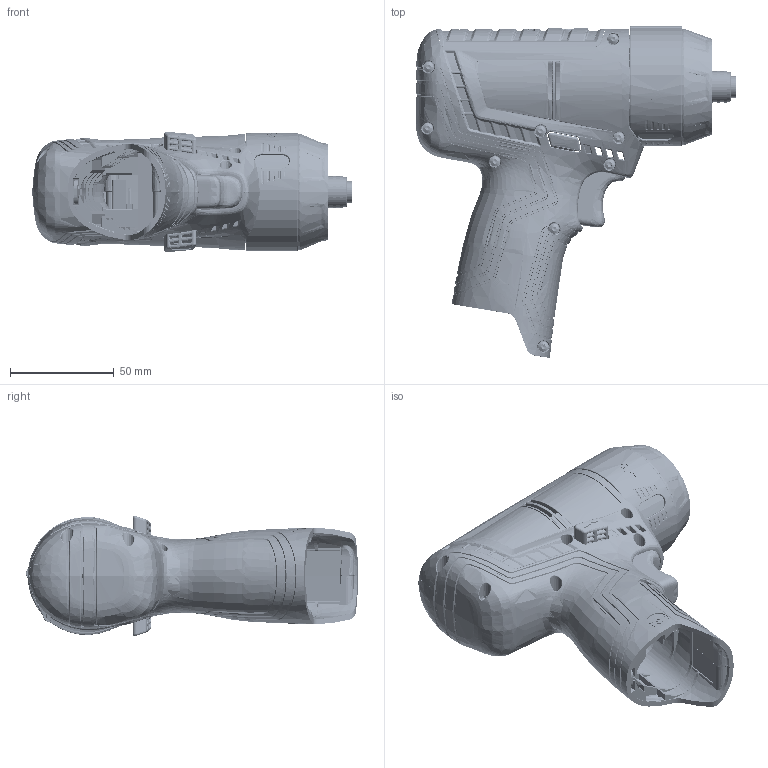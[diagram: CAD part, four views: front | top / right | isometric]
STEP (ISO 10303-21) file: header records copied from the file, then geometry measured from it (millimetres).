
FILE_DESCRIPTION((''),'2;1');
FILE_NAME('3602D96400_ASM','2020-10-22T08:06:23',('LEM2MT'),(''),'CREO PARAMETRIC BY PTC INC, 2018190','CREO PARAMETRIC BY PTC INC, 2018190','');
FILE_SCHEMA(('AUTOMOTIVE_DESIGN { 1 0 10303 214 1 1 1 1 }'));
Products named in the file (57): 3602D96400_SKEL; 3605105053_SKEL0001; 3605105058-100; 3605105058-200; 3604460193; 3604460194; 3605105053_ASM; 3605105055; 3605105055_ASM; 3604460195; 3605105057; 3607030495_SKEL1; 3607030495_100_ASM; 3607030495_200_SKEL; 3605106122; 3605106122_ASM; 3600905085-01; 3600905085-02; 3600905085-03; 3600905085-04; 3600905085-05; 3600905085_ASM; 3606337257_ASM; 3607030495_400_SKEL0001; 3601038054; 3600100104; 3607030495_300_ASM; 3600134019; 3600106034; 3607030495_400_ASM; 3607030495_200_ASM; 3607030495_SWF_SKEL; 3606337253; 2609110983; 2609110981; 2609110982; 2609110984; 2609110985; 3600400038; 3607030495_SWF_ASM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
Assembly tree (79 placements, depth 6):
  3602D96400_ASM
    3602D96400_SKEL
    3605105053_ASM
      3605105053_SKEL0001
      3605105058-100
      3605105058-200
      3604460193
      3604460194
    3605105055_ASM
      3605105055
    3604460195
    3605105057
    3607030495_ASM
      3607030495_SKEL1
      3607030495_100_ASM
      3607030495_200_ASM
        3607030495_200_SKEL
        3605106122_ASM
          3605106122
        3600905085_ASM
          3600905085-01
          3600905085-02
          3600905085-03  x11
          3600905085-04  x2
          3600905085-05  x2
        3606337257_ASM
        3607030495_400_ASM
          3607030495_400_SKEL0001
          3607030495_300_ASM
            3601038054
            3600100104
          3600134019
          3600106034
      3607030495_SWF_ASM
        3607030495_SWF_SKEL
        3606337253
        2609110983
        2609110981
        2609110982
        2609110984
        2609110985
        3600400038
    3605105056_ASM
      3605105056
    3601106062
    3601099006  x3
    2609918183_10V8_BEU_ASM
    1600A023EF
    2607202377_ASM
      2607202377_SKEL0001
      2607202298_ASM  x2
        2607202298
        2607202298_010
      2607202275-RIB-MA
    2609110883  x9
    2609110835_IW
    2609110537_IW
Bounding box: 154.22 x 160.23 x 58.04 mm (x, y, z)
Volume: 183503 mm3; surface area: 194647.4 mm2
Topology: 55 solids, 55 shells, 12020 faces, 31095 edges, 19379 vertices
Faces by surface type: bspline 4743, plane 3429, cylinder 2144, torus 517, cone 447, sphere 398, extrusion 330, revolution 12
Entity records: 870707 total; most frequent: CARTESIAN_POINT 544357, ORIENTED_EDGE 52450, PRESENTATION_STYLE_ASSIGNMENT 31414, DIRECTION 29762, STYLED_ITEM 28393, CURVE_STYLE 26526, EDGE_CURVE 26225, VERTEX_POINT 16284
